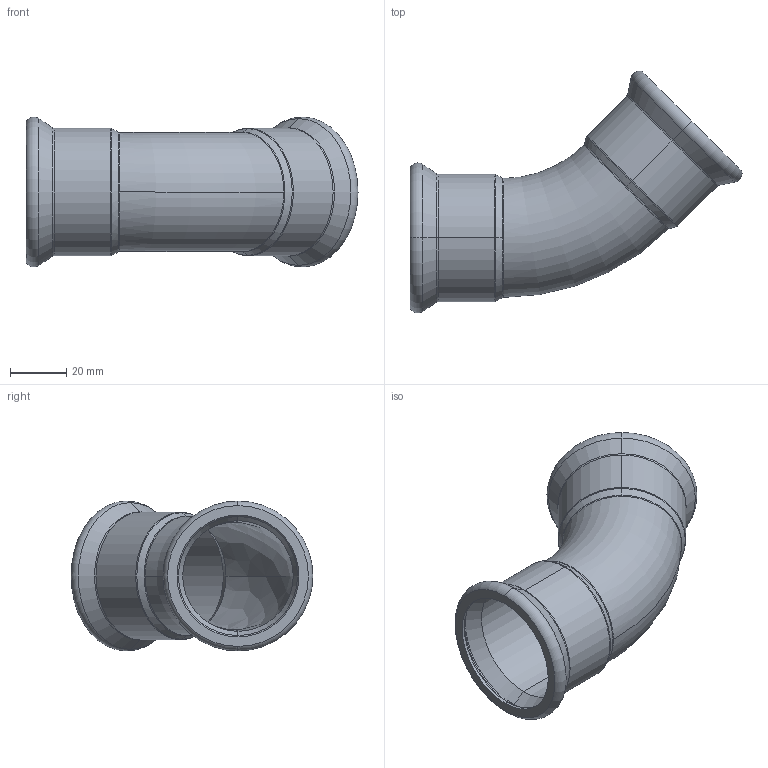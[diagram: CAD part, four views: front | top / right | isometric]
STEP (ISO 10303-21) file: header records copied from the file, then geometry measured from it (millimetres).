
FILE_DESCRIPTION (( 'STEP AP214' ), '1' );
FILE_NAME ('E420045.STEP', '2025-08-17T07:08:35', ( '' ), ( '' ), 'SwSTEP 2.0', 'SolidWorks 2020', '' );
FILE_SCHEMA (( 'AUTOMOTIVE_DESIGN' ));
Length unit declared in the file: millimetre
Products named in the file (1): E420045
Bounding box: 117.99 x 85.95 x 53.28 mm (x, y, z)
Volume: 25805.1 mm3; surface area: 35961 mm2
Topology: 3 solids, 3 shells, 64 faces, 148 edges, 88 vertices
Faces by surface type: torus 26, cone 16, cylinder 12, bspline 6, plane 4
Entity records: 4067 total; most frequent: CARTESIAN_POINT 1856, DIRECTION 342, ORIENTED_EDGE 296, AXIS2_PLACEMENT_3D 157, EDGE_CURVE 148, CIRCLE 98, VERTEX_POINT 88, EDGE_LOOP 68
